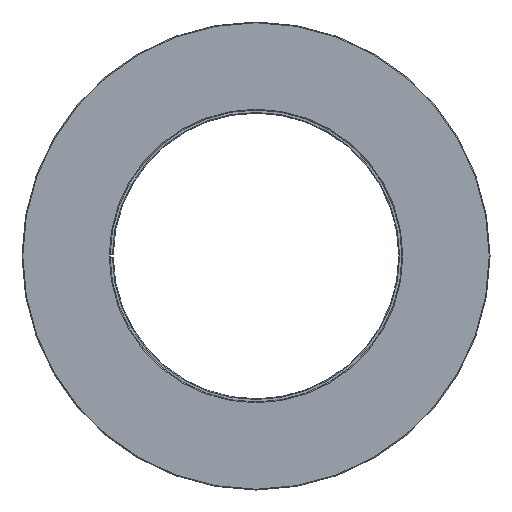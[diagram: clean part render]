
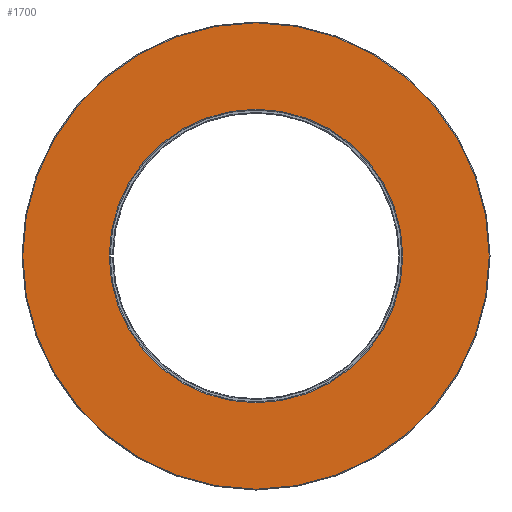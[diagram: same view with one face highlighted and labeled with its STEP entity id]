
A CAD part, left-side view. The second image highlights one B-rep face of the part: STEP entity #1700.
In plain terms, the highlighted planar face has unit normal (-1, 0, 0).
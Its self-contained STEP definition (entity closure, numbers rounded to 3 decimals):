
#1700 = ADVANCED_FACE( '', ( #4119, #4120 ), #4121, .T. );
#4119 = FACE_OUTER_BOUND( '', #8101, .T. );
#4120 = FACE_BOUND( '', #8102, .T. );
#4121 = PLANE( '', #8103 );
#8101 = EDGE_LOOP( '', ( #12581 ) );
#8102 = EDGE_LOOP( '', ( #12582 ) );
#8103 = AXIS2_PLACEMENT_3D( '', #12583, #12584, #12585 );
#12581 = ORIENTED_EDGE( '', *, *, #14276, .F. );
#12582 = ORIENTED_EDGE( '', *, *, #14372, .T. );
#12583 = CARTESIAN_POINT( '', ( -160., 239.5, 0. ) );
#12584 = DIRECTION( '', ( -1., 0., 0. ) );
#12585 = DIRECTION( '', ( 0., 0., 1. ) );
#14276 = EDGE_CURVE( '', #14596, #14596, #14597, .F. );
#14372 = EDGE_CURVE( '', #14706, #14706, #14707, .T. );
#14596 = VERTEX_POINT( '', #14939 );
#14597 = CIRCLE( '', #14940, 294. );
#14706 = VERTEX_POINT( '', #15076 );
#14707 = CIRCLE( '', #15077, 185. );
#14939 = CARTESIAN_POINT( '', ( -160., 0., 294. ) );
#14940 = AXIS2_PLACEMENT_3D( '', #15306, #15307, #15308 );
#15076 = CARTESIAN_POINT( '', ( -160., 185., 0. ) );
#15077 = AXIS2_PLACEMENT_3D( '', #15336, #15337, #15338 );
#15306 = CARTESIAN_POINT( '', ( -160., 0., 0. ) );
#15307 = DIRECTION( '', ( -1., 0., 0. ) );
#15308 = DIRECTION( '', ( 0., 0., 1. ) );
#15336 = CARTESIAN_POINT( '', ( -160., 0., 0. ) );
#15337 = DIRECTION( '', ( 1., 0., 0. ) );
#15338 = DIRECTION( '', ( 0., 1., 0. ) );
